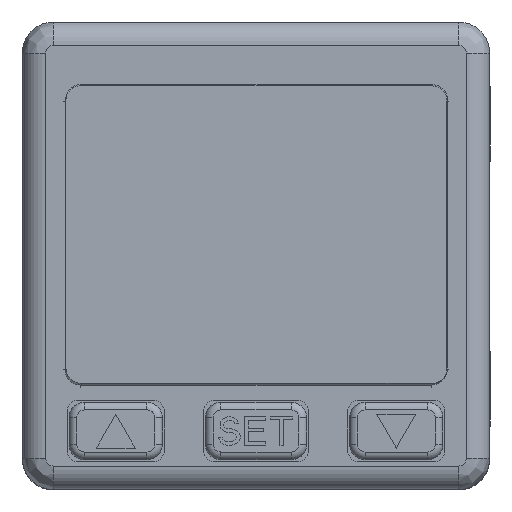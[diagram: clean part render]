
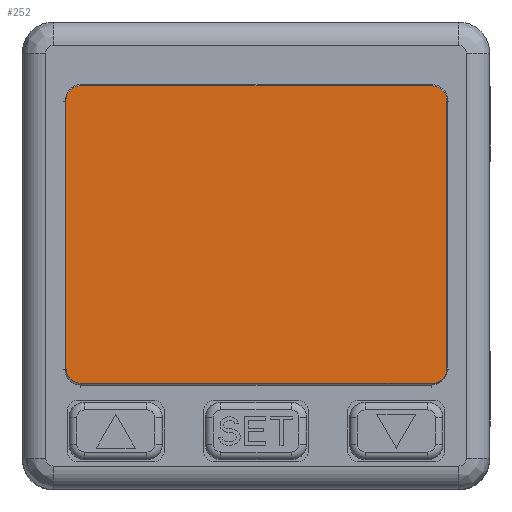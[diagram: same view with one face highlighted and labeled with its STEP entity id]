
A CAD part, top view. The second image highlights one B-rep face of the part: STEP entity #252.
In plain terms, the highlighted planar face has unit normal (0, 0, 1).
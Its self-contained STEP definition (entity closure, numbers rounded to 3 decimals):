
#252=ADVANCED_FACE('',(#1254),#1255,.T.);
#1254=FACE_OUTER_BOUND('',#3185,.T.);
#1255=PLANE('',#3186);
#3185=EDGE_LOOP('',(#6482,#6483,#6484,#6485,#6486,#6487,#6488,#6489,#6490,#6491));
#3186=AXIS2_PLACEMENT_3D('',#6492,#6493,#6494);
#6482=ORIENTED_EDGE('',*,*,#12176,.T.);
#6483=ORIENTED_EDGE('',*,*,#12177,.F.);
#6484=ORIENTED_EDGE('',*,*,#12178,.T.);
#6485=ORIENTED_EDGE('',*,*,#12179,.T.);
#6486=ORIENTED_EDGE('',*,*,#12180,.T.);
#6487=ORIENTED_EDGE('',*,*,#12181,.T.);
#6488=ORIENTED_EDGE('',*,*,#12182,.T.);
#6489=ORIENTED_EDGE('',*,*,#12135,.T.);
#6490=ORIENTED_EDGE('',*,*,#12183,.T.);
#6491=ORIENTED_EDGE('',*,*,#12184,.F.);
#6492=CARTESIAN_POINT('',(0.05,2.6,24.97));
#6493=DIRECTION('',(0.0,0.0,1.0));
#6494=DIRECTION('',(1.0,0.0,0.0));
#12135=EDGE_CURVE('',#14807,#14805,#14808,.T.);
#12176=EDGE_CURVE('',#14878,#14879,#14880,.T.);
#12177=EDGE_CURVE('',#14881,#14879,#14882,.T.);
#12178=EDGE_CURVE('',#14881,#14883,#14884,.T.);
#12179=EDGE_CURVE('',#14883,#14885,#14886,.T.);
#12180=EDGE_CURVE('',#14885,#14887,#14888,.T.);
#12181=EDGE_CURVE('',#14887,#14889,#14890,.T.);
#12182=EDGE_CURVE('',#14889,#14807,#14891,.T.);
#12183=EDGE_CURVE('',#14805,#14892,#14893,.T.);
#12184=EDGE_CURVE('',#14878,#14892,#14894,.T.);
#14805=VERTEX_POINT('',#19134);
#14807=VERTEX_POINT('',#19137);
#14808=LINE('',#19138,#19139);
#14878=VERTEX_POINT('',#19257);
#14879=VERTEX_POINT('',#19258);
#14880=LINE('',#19259,#19260);
#14881=VERTEX_POINT('',#19261);
#14882=B_SPLINE_CURVE_WITH_KNOTS('',3,(#19262,#19263,#19264,#19265),.UNSPECIFIED.,.F.,.F.,(4,4),(0.0,0.),.UNSPECIFIED.);
#14883=VERTEX_POINT('',#19266);
#14884=CIRCLE('',#19267,1.0);
#14885=VERTEX_POINT('',#19268);
#14886=LINE('',#19269,#19270);
#14887=VERTEX_POINT('',#19271);
#14888=CIRCLE('',#19272,1.0);
#14889=VERTEX_POINT('',#19273);
#14890=LINE('',#19274,#19275);
#14891=CIRCLE('',#19276,1.0);
#14892=VERTEX_POINT('',#19277);
#14893=CIRCLE('',#19278,1.0);
#14894=B_SPLINE_CURVE_WITH_KNOTS('',3,(#19279,#19280,#19281,#19282,#19283,#19284),.UNSPECIFIED.,.F.,.F.,(4,1,1,4),(0.,0.,0.001,0.001),.UNSPECIFIED.);
#19134=CARTESIAN_POINT('',(12.3,10.0,24.97));
#19137=CARTESIAN_POINT('',(12.3,-7.2,24.97));
#19138=CARTESIAN_POINT('',(12.3,-7.2,24.97));
#19139=VECTOR('',#23098,1.0);
#19257=CARTESIAN_POINT('',(11.25,10.992,24.97));
#19258=CARTESIAN_POINT('',(-11.25,10.992,24.97));
#19259=CARTESIAN_POINT('',(11.25,10.992,24.97));
#19260=VECTOR('',#23144,1.0);
#19261=CARTESIAN_POINT('',(-11.371,10.985,24.97));
#19262=CARTESIAN_POINT('',(-11.371,10.985,24.97));
#19263=CARTESIAN_POINT('',(-11.331,10.99,24.97));
#19264=CARTESIAN_POINT('',(-11.29,10.992,24.97));
#19265=CARTESIAN_POINT('',(-11.25,10.992,24.97));
#19266=CARTESIAN_POINT('',(-12.2,10.0,24.97));
#19267=AXIS2_PLACEMENT_3D('',#23145,#23146,#23147);
#19268=CARTESIAN_POINT('',(-12.2,-7.2,24.97));
#19269=CARTESIAN_POINT('',(-12.2,10.0,24.97));
#19270=VECTOR('',#23148,1.0);
#19271=CARTESIAN_POINT('',(-11.2,-8.2,24.97));
#19272=AXIS2_PLACEMENT_3D('',#23149,#23150,#23151);
#19273=CARTESIAN_POINT('',(11.3,-8.2,24.97));
#19274=CARTESIAN_POINT('',(-11.2,-8.2,24.97));
#19275=VECTOR('',#23152,1.0);
#19276=AXIS2_PLACEMENT_3D('',#23153,#23154,#23155);
#19277=CARTESIAN_POINT('',(12.191,10.454,24.97));
#19278=AXIS2_PLACEMENT_3D('',#23156,#23157,#23158);
#19279=CARTESIAN_POINT('',(11.25,10.992,24.97));
#19280=CARTESIAN_POINT('',(11.393,10.992,24.97));
#19281=CARTESIAN_POINT('',(11.679,10.935,24.97));
#19282=CARTESIAN_POINT('',(11.999,10.721,24.97));
#19283=CARTESIAN_POINT('',(12.144,10.534,24.97));
#19284=CARTESIAN_POINT('',(12.191,10.454,24.97));
#23098=DIRECTION('',(0.0,1.0,0.0));
#23144=DIRECTION('',(-1.0,0.0,0.0));
#23145=CARTESIAN_POINT('',(-11.2,10.0,24.97));
#23146=DIRECTION('',(0.0,0.0,1.0));
#23147=DIRECTION('',(-0.171,0.985,0.0));
#23148=DIRECTION('',(0.0,-1.0,0.0));
#23149=CARTESIAN_POINT('',(-11.2,-7.2,24.97));
#23150=DIRECTION('',(0.0,0.0,1.0));
#23151=DIRECTION('',(-1.0,0.0,0.0));
#23152=DIRECTION('',(1.0,0.0,0.0));
#23153=CARTESIAN_POINT('',(11.3,-7.2,24.97));
#23154=DIRECTION('',(0.0,0.0,1.0));
#23155=DIRECTION('',(0.,-1.0,0.0));
#23156=CARTESIAN_POINT('',(11.3,10.0,24.97));
#23157=DIRECTION('',(0.0,0.0,1.0));
#23158=DIRECTION('',(1.0,0.0,0.0));
